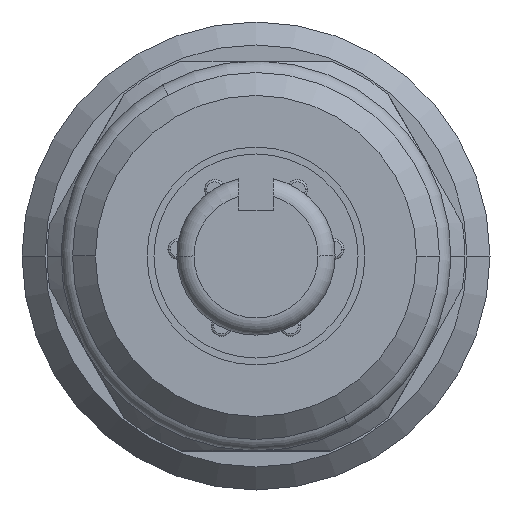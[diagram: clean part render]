
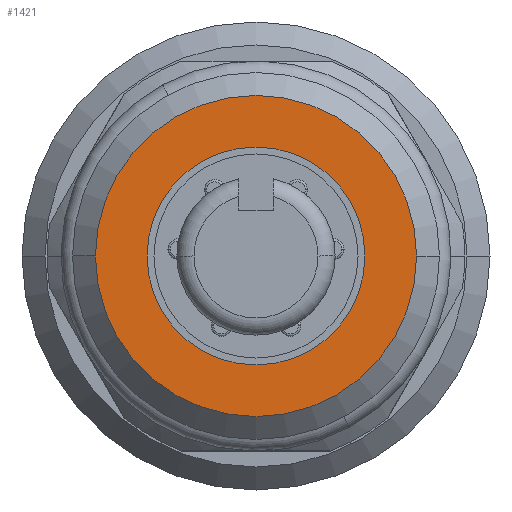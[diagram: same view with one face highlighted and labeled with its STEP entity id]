
A CAD part, left-side view. The second image highlights one B-rep face of the part: STEP entity #1421.
In plain terms, the highlighted planar face has unit normal (-1, 0, 0).
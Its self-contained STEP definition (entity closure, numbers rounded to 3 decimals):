
#1398=CARTESIAN_POINT('Axis2P3D Location',(-93.927,0.,0.)) ;
#1403=CARTESIAN_POINT('Axis2P3D Location',(-93.927,0.,0.)) ;
#1407=CARTESIAN_POINT('Vertex',(-93.927,7.,0.)) ;
#1409=CARTESIAN_POINT('Vertex',(-93.927,-7.,0.)) ;
#1412=CARTESIAN_POINT('Axis2P3D Location',(-93.927,0.,0.)) ;
#1399=DIRECTION('Axis2P3D Direction',(-1.,0.,0.)) ;
#1400=DIRECTION('Axis2P3D XDirection',(0.,-1.,0.)) ;
#1404=DIRECTION('Axis2P3D Direction',(-1.,0.,0.)) ;
#1413=DIRECTION('Axis2P3D Direction',(-1.,0.,0.)) ;
#1401=AXIS2_PLACEMENT_3D('Plane Axis2P3D',#1398,#1399,#1400) ;
#1405=AXIS2_PLACEMENT_3D('Circle Axis2P3D',#1403,#1404,$) ;
#1414=AXIS2_PLACEMENT_3D('Circle Axis2P3D',#1412,#1413,$) ;
#1418=ORIENTED_EDGE('',*,*,#1411,.T.) ;
#1419=ORIENTED_EDGE('',*,*,#1416,.T.) ;
#1421=ADVANCED_FACE('3',(#1420),#1402,.T.) ;
#1406=CIRCLE('generated circle',#1405,7.) ;
#1415=CIRCLE('generated circle',#1414,7.) ;
#1411=EDGE_CURVE('',#1408,#1410,#1406,.T.) ;
#1416=EDGE_CURVE('',#1410,#1408,#1415,.T.) ;
#1417=EDGE_LOOP('',(#1418,#1419)) ;
#1420=FACE_OUTER_BOUND('',#1417,.T.) ;
#1402=PLANE('',#1401) ;
#1408=VERTEX_POINT('',#1407) ;
#1410=VERTEX_POINT('',#1409) ;
